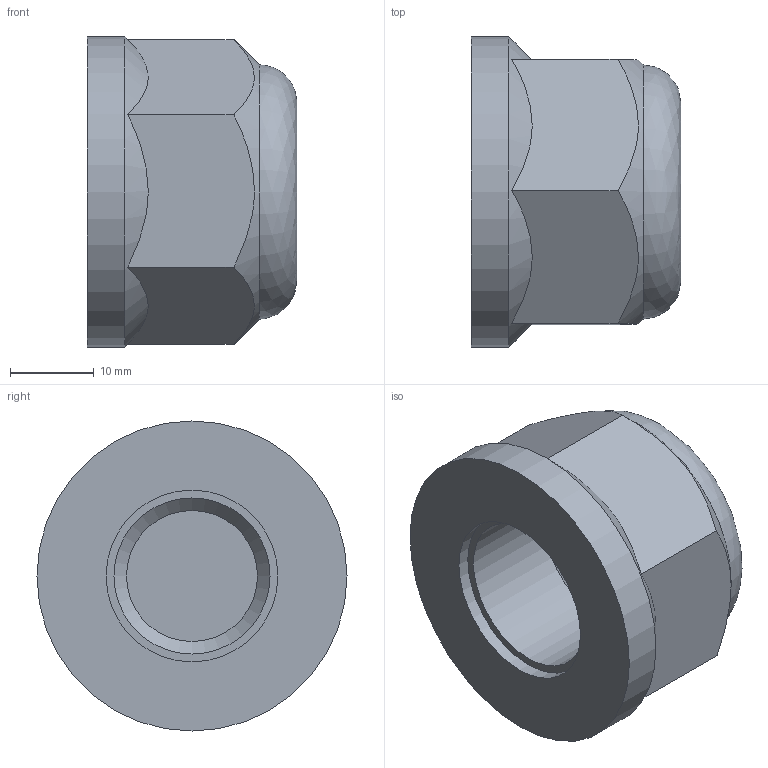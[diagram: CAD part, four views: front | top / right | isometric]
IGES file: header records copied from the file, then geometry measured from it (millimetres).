
Global section: file name: 050707005_0507070050A.ipt; native system: Autodesk Inventor 2015; preprocessor: unknown; author: KIM; date: 20170618.093303; units: millimetre
Bounding box: 25 x 37 x 37 mm (x, y, z)
Volume: 17419.7 mm3; surface area: 5267.9 mm2
Topology: 1 solids, 1 shells, 17 faces, 55 edges, 42 vertices
Faces by surface type: plane 10, revolution 4, cone 2, cylinder 1
Full cylindrical faces by diameter (mm): 37 x1
